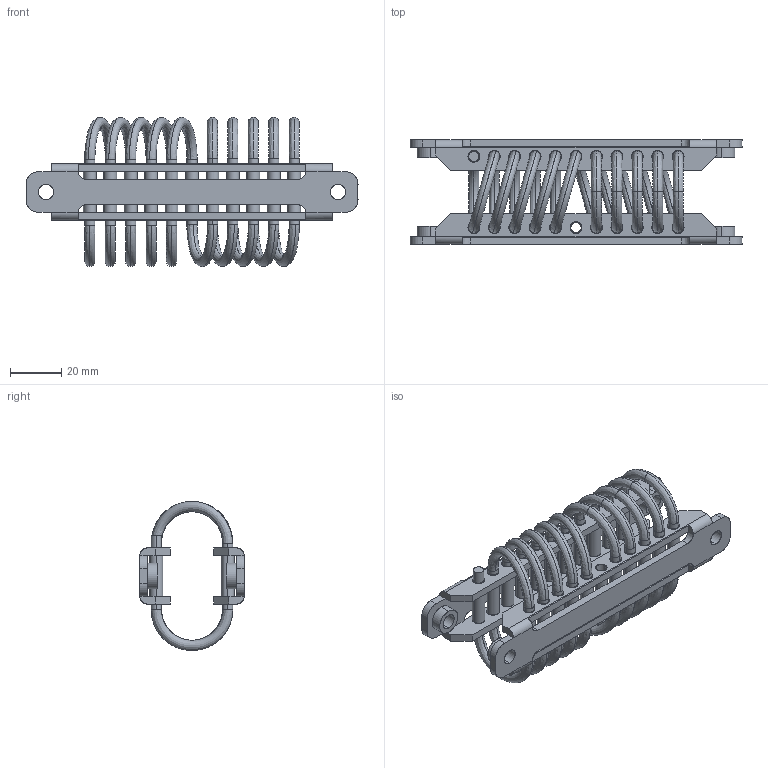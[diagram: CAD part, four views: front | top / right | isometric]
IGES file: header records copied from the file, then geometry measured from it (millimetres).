
Start section: SolidWorks IGES file using analytic representation for surfaces
Bounding box: 130 x 40.9 x 58.4 mm (x, y, z)
Surface area: 42146.9 mm2 (no closed solid volume)
Topology: 0 solids, 0 shells, 286 faces, 7756 edges, 7756 vertices
Faces by surface type: bspline 160, revolution 126
